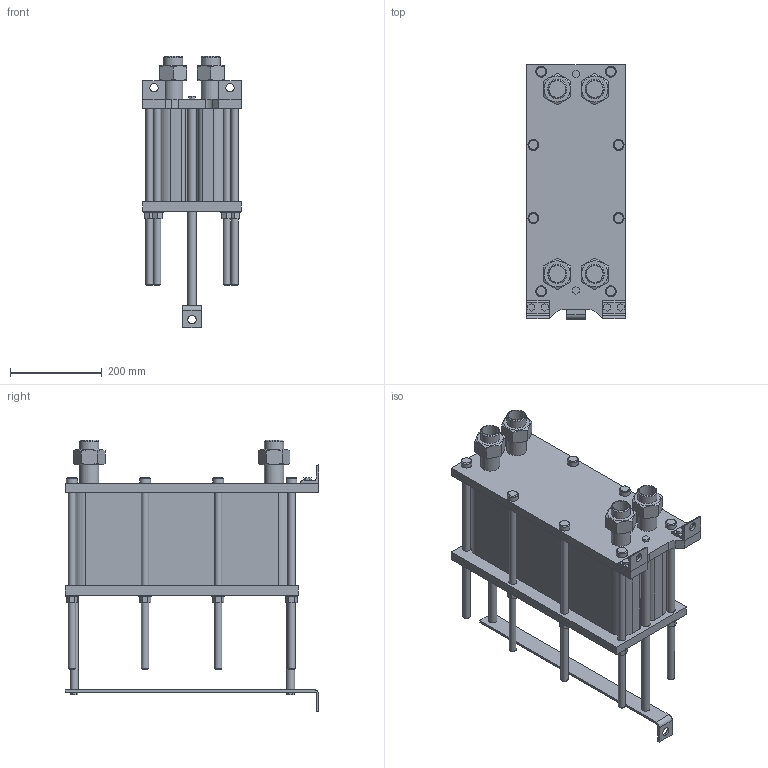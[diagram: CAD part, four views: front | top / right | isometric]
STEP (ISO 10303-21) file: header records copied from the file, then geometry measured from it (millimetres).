
FILE_DESCRIPTION(/* description */ (''),/* implementation_level */ '2;1');
FILE_NAME(/* name */ 'C:\Users\zhuro\Desktop\ENCO\TO\ЭН-004\ЭН-0,5-004-66-1.stp',/* time_stamp */ '2022-06-06T10:48:43+03:00',/* author */ ('zhuro'),/* organization */ (''),/* preprocessor_version */ 'ST-DEVELOPER v18.1',/* originating_system */ 'Autodesk Inventor 2022',/* authorisation */ '');
FILE_SCHEMA (('AUTOMOTIVE_DESIGN { 1 0 10303 214 3 1 1 }'));
Length unit declared in the file: millimetre
Products named in the file (1): ЭН-0,5-004-66-1
Bounding box: 216 x 555 x 593.8 mm (x, y, z)
Volume: 20979387.4 mm3; surface area: 1401880.7 mm2
Topology: 40 solids, 40 shells, 403 faces, 865 edges, 574 vertices
Faces by surface type: plane 272, cylinder 103, cone 28
Full cylindrical faces by diameter (mm): 10 x4, 16 x16, 18 x29, 20 x2, 24 x8, 28 x8, 36.3 x5, 42.3 x9
Entity records: 11137 total; most frequent: CARTESIAN_POINT 1939, DIRECTION 1879, ORIENTED_EDGE 1730, EDGE_CURVE 865, AXIS2_PLACEMENT_3D 658, VERTEX_POINT 574, LINE 563, VECTOR 563
